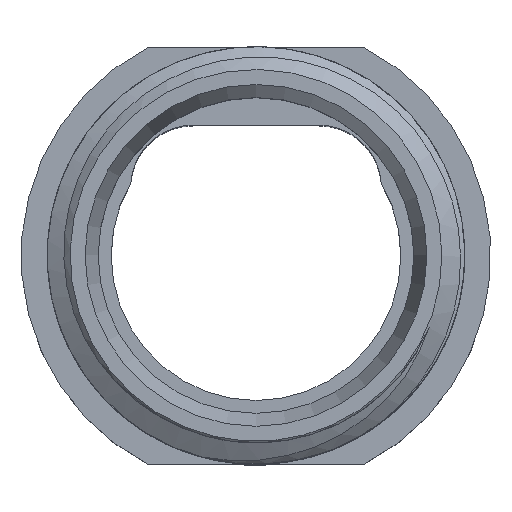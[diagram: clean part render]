
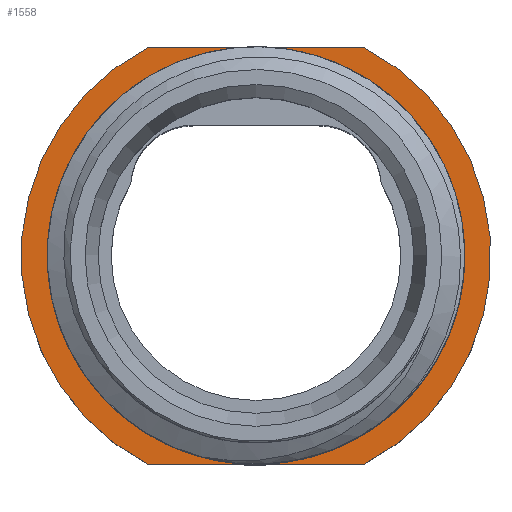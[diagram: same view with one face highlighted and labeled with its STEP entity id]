
A CAD part, top view. The second image highlights one B-rep face of the part: STEP entity #1558.
In plain terms, the highlighted planar face has unit normal (0, 0, 1).
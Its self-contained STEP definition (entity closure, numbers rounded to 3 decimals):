
#5 = EDGE_CURVE ( 'NONE', #1601, #2643, #1884, .T. ) ;
#46 = CARTESIAN_POINT ( 'NONE',  ( -4.123, 8., 2. ) ) ;
#102 = VECTOR ( 'NONE', #3030, 1000. ) ;
#114 = EDGE_LOOP ( 'NONE', ( #325 ) ) ;
#225 = AXIS2_PLACEMENT_3D ( 'NONE', #3670, #1335, #1353 ) ;
#286 = EDGE_LOOP ( 'NONE', ( #735, #363, #947, #458 ) ) ;
#325 = ORIENTED_EDGE ( 'NONE', *, *, #779, .F. ) ;
#363 = ORIENTED_EDGE ( 'NONE', *, *, #1900, .T. ) ;
#458 = ORIENTED_EDGE ( 'NONE', *, *, #2556, .T. ) ;
#462 = AXIS2_PLACEMENT_3D ( 'NONE', #1449, #2015, #2290 ) ;
#516 = DIRECTION ( 'NONE',  ( -1., 0., 0. ) ) ;
#525 = CARTESIAN_POINT ( 'NONE',  ( 4.123, 8., 2. ) ) ;
#565 = EDGE_CURVE ( 'NONE', #2772, #2688, #3472, .T. ) ;
#722 = DIRECTION ( 'NONE',  ( 0., 0., 1. ) ) ;
#735 = ORIENTED_EDGE ( 'NONE', *, *, #565, .F. ) ;
#761 = AXIS2_PLACEMENT_3D ( 'NONE', #2465, #722, #3603 ) ;
#779 = EDGE_CURVE ( 'NONE', #2758, #2758, #3459, .T. ) ;
#947 = ORIENTED_EDGE ( 'NONE', *, *, #5, .F. ) ;
#1070 = DIRECTION ( 'NONE',  ( 1., 0., 0. ) ) ;
#1110 = FACE_BOUND ( 'NONE', #114, .T. ) ;
#1186 = FACE_OUTER_BOUND ( 'NONE', #286, .T. ) ;
#1335 = DIRECTION ( 'NONE',  ( 0., 0., 1. ) ) ;
#1353 = DIRECTION ( 'NONE',  ( 1., 0., 0. ) ) ;
#1362 = AXIS2_PLACEMENT_3D ( 'NONE', #3653, #3097, #1070 ) ;
#1390 = CARTESIAN_POINT ( 'NONE',  ( -4.123, -8., 2. ) ) ;
#1449 = CARTESIAN_POINT ( 'NONE',  ( 0., 7.85, 2. ) ) ;
#1558 = ADVANCED_FACE ( 'NONE', ( #1110, #1186 ), #3438, .F. ) ;
#1582 = CARTESIAN_POINT ( 'NONE',  ( 0., 8., 2. ) ) ;
#1601 = VERTEX_POINT ( 'NONE', #46 ) ;
#1884 = LINE ( 'NONE', #1582, #102 ) ;
#1900 = EDGE_CURVE ( 'NONE', #2772, #2643, #3281, .T. ) ;
#1949 = CARTESIAN_POINT ( 'NONE',  ( 0., -8., 2. ) ) ;
#2015 = DIRECTION ( 'NONE',  ( 0., 0., -1. ) ) ;
#2290 = DIRECTION ( 'NONE',  ( -1., 0., 0. ) ) ;
#2465 = CARTESIAN_POINT ( 'NONE',  ( 0., 0., 2. ) ) ;
#2556 = EDGE_CURVE ( 'NONE', #1601, #2688, #2991, .T. ) ;
#2643 = VERTEX_POINT ( 'NONE', #525 ) ;
#2688 = VERTEX_POINT ( 'NONE', #1390 ) ;
#2758 = VERTEX_POINT ( 'NONE', #3297 ) ;
#2772 = VERTEX_POINT ( 'NONE', #3134 ) ;
#2801 = VECTOR ( 'NONE', #516, 1000. ) ;
#2991 = CIRCLE ( 'NONE', #225, 9. ) ;
#3030 = DIRECTION ( 'NONE',  ( 1., 0., 0. ) ) ;
#3097 = DIRECTION ( 'NONE',  ( 0., 0., 1. ) ) ;
#3134 = CARTESIAN_POINT ( 'NONE',  ( 4.123, -8., 2. ) ) ;
#3281 = CIRCLE ( 'NONE', #1362, 9. ) ;
#3297 = CARTESIAN_POINT ( 'NONE',  ( 7.85, 0., 2. ) ) ;
#3438 = PLANE ( 'NONE',  #462 ) ;
#3459 = CIRCLE ( 'NONE', #761, 7.85 ) ;
#3472 = LINE ( 'NONE', #1949, #2801 ) ;
#3603 = DIRECTION ( 'NONE',  ( 1., 0., 0. ) ) ;
#3653 = CARTESIAN_POINT ( 'NONE',  ( 0., 0., 2. ) ) ;
#3670 = CARTESIAN_POINT ( 'NONE',  ( 0., 0., 2. ) ) ;
